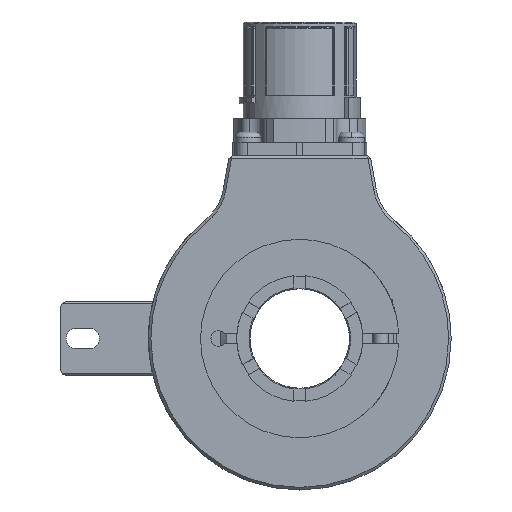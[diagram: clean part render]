
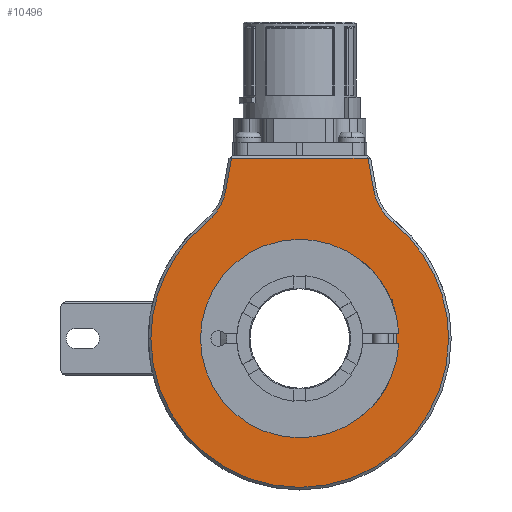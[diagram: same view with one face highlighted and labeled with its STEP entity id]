
A CAD part, left-side view. The second image highlights one B-rep face of the part: STEP entity #10496.
In plain terms, the highlighted planar face has unit normal (-1, 0, 0).
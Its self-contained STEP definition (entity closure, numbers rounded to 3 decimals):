
#373 = DIRECTION ( 'NONE',  ( 1., 0., 0. ) ) ;
#494 = ORIENTED_EDGE ( 'NONE', *, *, #6868, .T. ) ;
#814 = VERTEX_POINT ( 'NONE', #22079 ) ;
#915 = DIRECTION ( 'NONE',  ( 0., -1., 0. ) ) ;
#1041 = DIRECTION ( 'NONE',  ( 0., -1., 0. ) ) ;
#1221 = DIRECTION ( 'NONE',  ( 1., 0., 0. ) ) ;
#2097 = CIRCLE ( 'NONE', #13236, 28.5 ) ;
#2469 = VERTEX_POINT ( 'NONE', #21106 ) ;
#2498 = CARTESIAN_POINT ( 'NONE',  ( -27., 17.883, 22.191 ) ) ;
#2979 = CARTESIAN_POINT ( 'NONE',  ( -27., 0., 0. ) ) ;
#3096 = AXIS2_PLACEMENT_3D ( 'NONE', #15697, #9698, #915 ) ;
#3231 = AXIS2_PLACEMENT_3D ( 'NONE', #11876, #24532, #7704 ) ;
#3368 = FACE_BOUND ( 'NONE', #11459, .T. ) ;
#3667 = VERTEX_POINT ( 'NONE', #17231 ) ;
#4595 = VERTEX_POINT ( 'NONE', #14035 ) ;
#4684 = CARTESIAN_POINT ( 'NONE',  ( -27., 0., 0. ) ) ;
#4691 = CARTESIAN_POINT ( 'NONE',  ( -27., 0., 0. ) ) ;
#4713 = VERTEX_POINT ( 'NONE', #17206 ) ;
#4782 = ORIENTED_EDGE ( 'NONE', *, *, #8702, .T. ) ;
#5381 = EDGE_CURVE ( 'NONE', #4595, #13087, #11300, .T. ) ;
#5768 = VECTOR ( 'NONE', #22565, 1000. ) ;
#5945 = DIRECTION ( 'NONE',  ( 0., -1., 0. ) ) ;
#6461 = DIRECTION ( 'NONE',  ( 0., -1., 0. ) ) ;
#6868 = EDGE_CURVE ( 'NONE', #9409, #23401, #9818, .T. ) ;
#7483 = VECTOR ( 'NONE', #18987, 1000. ) ;
#7704 = DIRECTION ( 'NONE',  ( 0., -1., 0. ) ) ;
#8415 = ORIENTED_EDGE ( 'NONE', *, *, #20029, .T. ) ;
#8702 = EDGE_CURVE ( 'NONE', #10359, #3667, #20178, .T. ) ;
#9409 = VERTEX_POINT ( 'NONE', #23125 ) ;
#9558 = VERTEX_POINT ( 'NONE', #2498 ) ;
#9698 = DIRECTION ( 'NONE',  ( -1., 0., 0. ) ) ;
#9818 = LINE ( 'NONE', #22886, #16149 ) ;
#9903 = LINE ( 'NONE', #16179, #5768 ) ;
#10359 = VERTEX_POINT ( 'NONE', #17737 ) ;
#10389 = AXIS2_PLACEMENT_3D ( 'NONE', #2979, #11480, #19993 ) ;
#10496 = ADVANCED_FACE ( 'NONE', ( #16465, #3368 ), #22857, .T. ) ;
#11300 = CIRCLE ( 'NONE', #15759, 28.5 ) ;
#11410 = CIRCLE ( 'NONE', #26969, 10.5 ) ;
#11459 = EDGE_LOOP ( 'NONE', ( #13844, #4782 ) ) ;
#11480 = DIRECTION ( 'NONE',  ( 1., 0., 0. ) ) ;
#11876 = CARTESIAN_POINT ( 'NONE',  ( -27., 29., 0. ) ) ;
#12870 = CARTESIAN_POINT ( 'NONE',  ( -27., -28.5, 0. ) ) ;
#13087 = VERTEX_POINT ( 'NONE', #12870 ) ;
#13236 = AXIS2_PLACEMENT_3D ( 'NONE', #24557, #22335, #1041 ) ;
#13352 = ORIENTED_EDGE ( 'NONE', *, *, #24749, .T. ) ;
#13556 = EDGE_CURVE ( 'NONE', #4713, #9409, #9903, .T. ) ;
#13844 = ORIENTED_EDGE ( 'NONE', *, *, #22905, .T. ) ;
#13864 = CARTESIAN_POINT ( 'NONE',  ( -27., 14.131, 28.544 ) ) ;
#14035 = CARTESIAN_POINT ( 'NONE',  ( -27., 28.5, 0. ) ) ;
#14273 = DIRECTION ( 'NONE',  ( 0., 0.174, -0.985 ) ) ;
#14404 = CARTESIAN_POINT ( 'NONE',  ( -27., -17.711, 8.236 ) ) ;
#14449 = CARTESIAN_POINT ( 'NONE',  ( -27., 24.471, 30.367 ) ) ;
#14765 = ORIENTED_EDGE ( 'NONE', *, *, #5381, .T. ) ;
#15286 = DIRECTION ( 'NONE',  ( -1., 0., 0. ) ) ;
#15368 = CIRCLE ( 'NONE', #18481, 10.5 ) ;
#15697 = CARTESIAN_POINT ( 'NONE',  ( -27., 0., 0. ) ) ;
#15759 = AXIS2_PLACEMENT_3D ( 'NONE', #4684, #15286, #23625 ) ;
#16149 = VECTOR ( 'NONE', #14273, 1000. ) ;
#16179 = CARTESIAN_POINT ( 'NONE',  ( -27., 29., 34.5 ) ) ;
#16215 = EDGE_LOOP ( 'NONE', ( #24520, #17549, #494, #17043, #8415, #14765, #23201, #13352 ) ) ;
#16267 = AXIS2_PLACEMENT_3D ( 'NONE', #4691, #373, #21151 ) ;
#16465 = FACE_OUTER_BOUND ( 'NONE', #16215, .T. ) ;
#17043 = ORIENTED_EDGE ( 'NONE', *, *, #23096, .T. ) ;
#17206 = CARTESIAN_POINT ( 'NONE',  ( -27., -13.08, 34.5 ) ) ;
#17231 = CARTESIAN_POINT ( 'NONE',  ( -27., 18.5, 0. ) ) ;
#17549 = ORIENTED_EDGE ( 'NONE', *, *, #13556, .T. ) ;
#17737 = CARTESIAN_POINT ( 'NONE',  ( -27., -18.5, 0. ) ) ;
#18481 = AXIS2_PLACEMENT_3D ( 'NONE', #14449, #1221, #5945 ) ;
#18987 = DIRECTION ( 'NONE',  ( 0., 0.174, 0.985 ) ) ;
#19422 = CARTESIAN_POINT ( 'NONE',  ( -27., -24.471, 30.367 ) ) ;
#19993 = DIRECTION ( 'NONE',  ( 0., 1., 0. ) ) ;
#20029 = EDGE_CURVE ( 'NONE', #9558, #4595, #22665, .T. ) ;
#20178 = CIRCLE ( 'NONE', #10389, 18.5 ) ;
#20701 = CIRCLE ( 'NONE', #16267, 18.5 ) ;
#20808 = LINE ( 'NONE', #14404, #7483 ) ;
#21106 = CARTESIAN_POINT ( 'NONE',  ( -27., -17.883, 22.191 ) ) ;
#21151 = DIRECTION ( 'NONE',  ( 0., 1., 0. ) ) ;
#22079 = CARTESIAN_POINT ( 'NONE',  ( -27., -14.131, 28.544 ) ) ;
#22335 = DIRECTION ( 'NONE',  ( -1., 0., 0. ) ) ;
#22565 = DIRECTION ( 'NONE',  ( 0., 1., 0. ) ) ;
#22665 = CIRCLE ( 'NONE', #3096, 28.5 ) ;
#22857 = PLANE ( 'NONE',  #3231 ) ;
#22886 = CARTESIAN_POINT ( 'NONE',  ( -27., 19.46, -1.682 ) ) ;
#22905 = EDGE_CURVE ( 'NONE', #3667, #10359, #20701, .T. ) ;
#23096 = EDGE_CURVE ( 'NONE', #23401, #9558, #15368, .T. ) ;
#23125 = CARTESIAN_POINT ( 'NONE',  ( -27., 13.08, 34.5 ) ) ;
#23201 = ORIENTED_EDGE ( 'NONE', *, *, #25651, .T. ) ;
#23401 = VERTEX_POINT ( 'NONE', #13864 ) ;
#23625 = DIRECTION ( 'NONE',  ( 0., -1., 0. ) ) ;
#24520 = ORIENTED_EDGE ( 'NONE', *, *, #26495, .T. ) ;
#24532 = DIRECTION ( 'NONE',  ( -1., 0., 0. ) ) ;
#24557 = CARTESIAN_POINT ( 'NONE',  ( -27., 0., 0. ) ) ;
#24749 = EDGE_CURVE ( 'NONE', #2469, #814, #11410, .T. ) ;
#25523 = DIRECTION ( 'NONE',  ( 1., 0., 0. ) ) ;
#25651 = EDGE_CURVE ( 'NONE', #13087, #2469, #2097, .T. ) ;
#26495 = EDGE_CURVE ( 'NONE', #814, #4713, #20808, .T. ) ;
#26969 = AXIS2_PLACEMENT_3D ( 'NONE', #19422, #25523, #6461 ) ;
